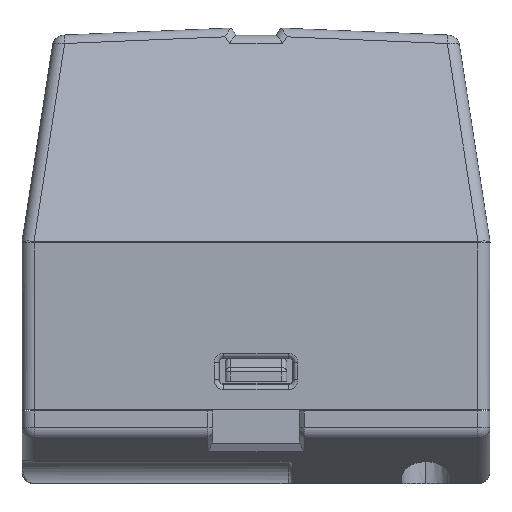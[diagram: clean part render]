
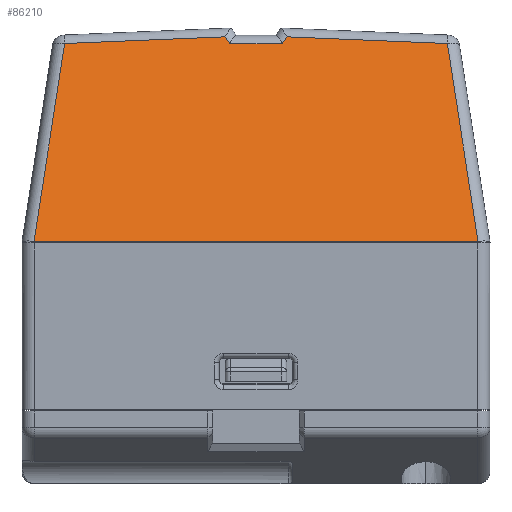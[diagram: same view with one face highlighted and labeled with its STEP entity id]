
A CAD part, top view. The second image highlights one B-rep face of the part: STEP entity #86210.
In plain terms, the highlighted planar face has unit normal (0, 0.306, 0.952).
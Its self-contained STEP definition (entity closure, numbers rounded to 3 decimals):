
#76230=CARTESIAN_POINT('',(38.702,44.565,
8.99));
#76240=VERTEX_POINT('',#76230);
#83730=CARTESIAN_POINT('',(56.728,44.565,
8.99));
#83740=VERTEX_POINT('',#83730);
#85010=CARTESIAN_POINT('',(56.715,44.564,8.99))
;
#85020=VERTEX_POINT('',#85010);
#85050=CARTESIAN_POINT('',(56.728,44.565,
8.99));
#85060=CARTESIAN_POINT('',(56.727,44.565,
8.99));
#85070=CARTESIAN_POINT('',(56.725,44.565,
8.99));
#85080=CARTESIAN_POINT('',(56.723,44.565,
8.99));
#85090=CARTESIAN_POINT('',(56.723,44.565,
8.99));
#85100=CARTESIAN_POINT('',(56.722,44.565,
8.99));
#85110=CARTESIAN_POINT('',(56.722,44.565,
8.99));
#85120=CARTESIAN_POINT('',(56.721,44.565,
8.99));
#85130=CARTESIAN_POINT('',(56.718,44.565,
8.99));
#85140=CARTESIAN_POINT('',(56.717,44.564,
8.99));
#85150=CARTESIAN_POINT('',(56.715,44.564,8.99))
;
#85160=B_SPLINE_CURVE_WITH_KNOTS('',3,(#85050,#85060,#85070,#85080,
#85090,#85100,#85110,#85120,#85130,#85140,#85150),.UNSPECIFIED.,.F.,.F.,
(4,2,3,2,4),(0.,0.006,0.008,
0.011,0.017),.UNSPECIFIED.);
#85170=EDGE_CURVE('',#83740,#85020,#85160,.T.);
#85370=CARTESIAN_POINT('',(20.474,53.235,6.2))
;
#85380=DIRECTION('',(0.,-0.306,
-0.952));
#85390=DIRECTION('',(0.,-0.952,
0.306));
#85400=AXIS2_PLACEMENT_3D('',#85370,#85380,#85390);
#85410=PLANE('',#85400);
#85420=CARTESIAN_POINT('',(63.215,2.653,
22.479));
#85430=DIRECTION('',(0.146,-0.942,
0.303));
#85440=VECTOR('',#85430,1.);
#85450=LINE('',#85420,#85440);
#85460=CARTESIAN_POINT('',(55.484,52.605,
6.403));
#85470=VERTEX_POINT('',#85460);
#85480=EDGE_CURVE('',#85470,#83740,#85450,.T.);
#85490=ORIENTED_EDGE('',*,*,#85480,.F.);
#85500=ORIENTED_EDGE('',*,*,#85170,.F.);
#85510=CARTESIAN_POINT('',(95.431,44.564,8.99));
#85520=DIRECTION('',(-1.,0.,0.));
#85530=VECTOR('',#85520,1.);
#85540=LINE('',#85510,#85530);
#85550=CARTESIAN_POINT('',(38.715,44.564,8.99))
;
#85560=VERTEX_POINT('',#85550);
#85570=EDGE_CURVE('',#85020,#85560,#85540,.T.);
#85580=ORIENTED_EDGE('',*,*,#85570,.F.);
#85590=CARTESIAN_POINT('',(38.715,44.564,8.99))
;
#85600=CARTESIAN_POINT('',(38.714,44.564,
8.99));
#85610=CARTESIAN_POINT('',(38.712,44.565,
8.99));
#85620=CARTESIAN_POINT('',(38.71,44.565,
8.99));
#85630=CARTESIAN_POINT('',(38.709,44.565,
8.99));
#85640=CARTESIAN_POINT('',(38.708,44.565,
8.99));
#85650=CARTESIAN_POINT('',(38.708,44.565,
8.99));
#85660=CARTESIAN_POINT('',(38.708,44.565,
8.99));
#85670=CARTESIAN_POINT('',(38.706,44.565,
8.99));
#85680=CARTESIAN_POINT('',(38.704,44.565,
8.99));
#85690=CARTESIAN_POINT('',(38.702,44.565,
8.99));
#85700=B_SPLINE_CURVE_WITH_KNOTS('',3,(#85590,#85600,#85610,#85620,
#85630,#85640,#85650,#85660,#85670,#85680,#85690),.UNSPECIFIED.,.F.,.F.,
(4,2,3,2,4),(0.,0.006,0.009,
0.011,0.017),.UNSPECIFIED.);
#85710=EDGE_CURVE('',#85560,#76240,#85700,.T.);
#85720=ORIENTED_EDGE('',*,*,#85710,.F.);
#85730=CARTESIAN_POINT('',(32.216,2.653,
22.479));
#85740=DIRECTION('',(0.146,0.942,
-0.303));
#85750=VECTOR('',#85740,1.);
#85760=LINE('',#85730,#85750);
#85770=CARTESIAN_POINT('',(39.947,52.605,
6.403));
#85780=VERTEX_POINT('',#85770);
#85790=EDGE_CURVE('',#76240,#85780,#85760,.T.);
#85800=ORIENTED_EDGE('',*,*,#85790,.F.);
#85810=CARTESIAN_POINT('',(95.431,54.917,5.658));
#85820=DIRECTION('',(0.999,0.042,
-0.013));
#85830=VECTOR('',#85820,1.);
#85840=LINE('',#85810,#85830);
#85850=CARTESIAN_POINT('',(46.455,52.877,
6.315));
#85860=VERTEX_POINT('',#85850);
#85870=EDGE_CURVE('',#85780,#85860,#85840,.T.);
#85880=ORIENTED_EDGE('',*,*,#85870,.F.);
#85890=CARTESIAN_POINT('',(79.938,2.653,
22.479));
#85900=DIRECTION('',(0.536,-0.804,
0.259));
#85910=VECTOR('',#85900,1.);
#85920=LINE('',#85890,#85910);
#85930=CARTESIAN_POINT('',(46.648,52.588,
6.408));
#85940=VERTEX_POINT('',#85930);
#85950=EDGE_CURVE('',#85860,#85940,#85920,.T.);
#85960=ORIENTED_EDGE('',*,*,#85950,.F.);
#85970=CARTESIAN_POINT('',(95.431,52.588,6.408));
#85980=DIRECTION('',(1.,0.,0.));
#85990=VECTOR('',#85980,1.);
#86000=LINE('',#85970,#85990);
#86010=CARTESIAN_POINT('',(48.783,52.588,
6.408));
#86020=VERTEX_POINT('',#86010);
#86030=EDGE_CURVE('',#85940,#86020,#86000,.T.);
#86040=ORIENTED_EDGE('',*,*,#86030,.F.);
#86050=CARTESIAN_POINT('',(15.493,2.653,
22.479));
#86060=DIRECTION('',(0.536,0.804,
-0.259));
#86070=VECTOR('',#86060,1.);
#86080=LINE('',#86050,#86070);
#86090=CARTESIAN_POINT('',(48.975,52.877,
6.315));
#86100=VERTEX_POINT('',#86090);
#86110=EDGE_CURVE('',#86020,#86100,#86080,.T.);
#86120=ORIENTED_EDGE('',*,*,#86110,.F.);
#86130=CARTESIAN_POINT('',(95.431,50.941,6.938));
#86140=DIRECTION('',(-0.999,0.042,
-0.013));
#86150=VECTOR('',#86140,1.);
#86160=LINE('',#86130,#86150);
#86170=EDGE_CURVE('',#85470,#86100,#86160,.T.);
#86180=ORIENTED_EDGE('',*,*,#86170,.T.);
#86190=EDGE_LOOP('',(#86180,#86120,#86040,#85960,#85880,#85800,#85720,
#85580,#85500,#85490));
#86200=FACE_OUTER_BOUND('',#86190,.T.);
#86210=ADVANCED_FACE('',(#86200),#85410,.F.);
